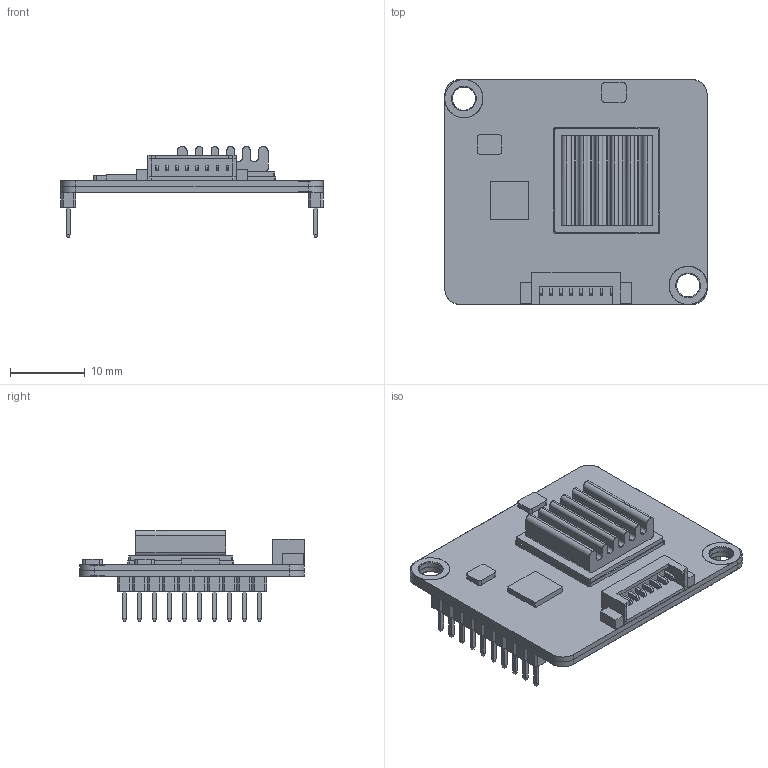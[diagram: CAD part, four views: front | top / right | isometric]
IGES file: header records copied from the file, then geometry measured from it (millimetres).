
Global section: file name: C:\Users\Administrator\Desktop\; native system: Rhinoceros ( Nov 21 2023 ); preprocessor: Trout Lake IGES 012 Nov 21 2023; date: 250325.061424; units: centimetre
Bounding box: 35.02 x 30.02 x 12.14 mm (x, y, z)
Surface area: 5025.9 mm2 (no closed solid volume)
Topology: 0 solids, 0 shells, 664 faces, 7188 edges, 7172 vertices
Faces by surface type: bspline 664
